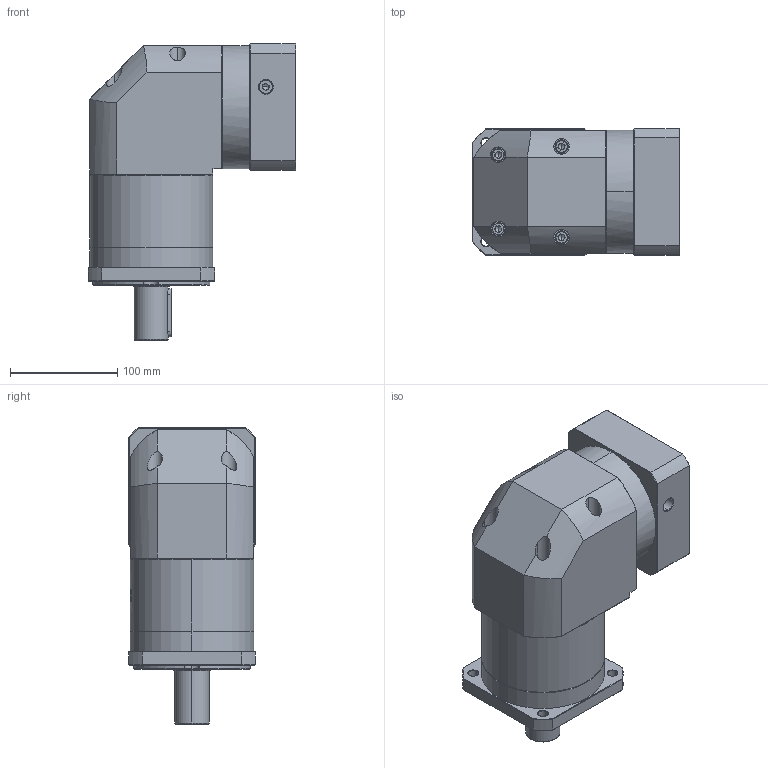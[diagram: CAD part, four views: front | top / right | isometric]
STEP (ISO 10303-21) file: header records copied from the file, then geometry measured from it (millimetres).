
FILE_DESCRIPTION (( 'STEP AP214' ), '1' );
FILE_NAME ('ZFR120A-D32-L2-P2-22-95-115-M8.step', '2023-08-27T08:09:28', ( '' ), ( '' ), 'SwSTEP 2.0', 'SolidWorks 2016', '' );
FILE_SCHEMA (( 'AUTOMOTIVE_DESIGN' ));
Length unit declared in the file: millimetre
Products named in the file (1): ZFR120A-D32-L2-P2-22-95-115-M8
Bounding box: 193.9 x 118 x 276.5 mm (x, y, z)
Volume: 3207790.2 mm3; surface area: 254937.8 mm2
Topology: 6 solids, 6 shells, 2266 faces, 5977 edges, 3816 vertices
Faces by surface type: plane 1061, cylinder 434, bspline 425, cone 338, torus 8
Entity records: 124457 total; most frequent: CARTESIAN_POINT 49043, ORIENTED_EDGE 11894, DIRECTION 8623, EDGE_CURVE 5947, VERTEX_POINT 3816, LINE 3159, VECTOR 3159, AXIS2_PLACEMENT_3D 2732
